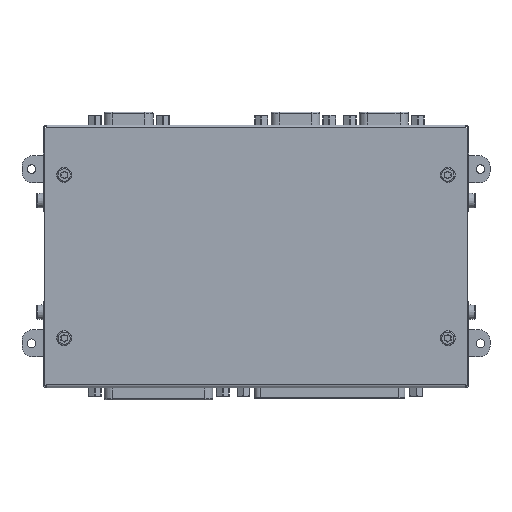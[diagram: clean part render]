
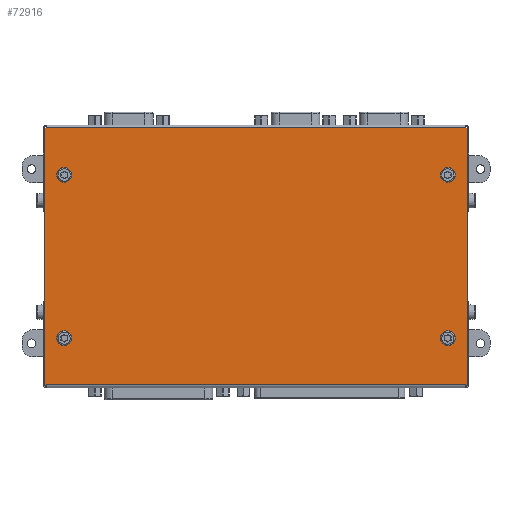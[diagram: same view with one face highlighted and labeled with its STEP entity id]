
A CAD part, top view. The second image highlights one B-rep face of the part: STEP entity #72916.
In plain terms, the highlighted planar face has unit normal (0, 0, 1).
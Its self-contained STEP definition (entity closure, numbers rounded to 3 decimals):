
#337=FACE_BOUND('',#11298,.T.);
#338=FACE_BOUND('',#11299,.T.);
#339=FACE_BOUND('',#11300,.T.);
#340=FACE_BOUND('',#11301,.T.);
#1684=PLANE('',#82533);
#7882=FACE_OUTER_BOUND('',#11297,.T.);
#11297=EDGE_LOOP('',(#65716,#65717,#65718,#65719,#65720,#65721,#65722,#65723));
#11298=EDGE_LOOP('',(#65724));
#11299=EDGE_LOOP('',(#65725));
#11300=EDGE_LOOP('',(#65726));
#11301=EDGE_LOOP('',(#65727));
#18824=LINE('',#135709,#26687);
#18830=LINE('',#135720,#26693);
#18837=LINE('',#135736,#26700);
#18840=LINE('',#135741,#26703);
#18843=LINE('',#135746,#26706);
#18844=LINE('',#135749,#26707);
#18846=LINE('',#135753,#26709);
#18857=LINE('',#135789,#26720);
#26687=VECTOR('',#101420,10.);
#26693=VECTOR('',#101428,10.);
#26700=VECTOR('',#101439,10.);
#26703=VECTOR('',#101444,10.);
#26706=VECTOR('',#101449,10.);
#26707=VECTOR('',#101452,10.);
#26709=VECTOR('',#101458,10.);
#26720=VECTOR('',#101519,10.);
#30709=CIRCLE('',#82432,1.6);
#30711=CIRCLE('',#82435,1.6);
#30713=CIRCLE('',#82438,1.6);
#30715=CIRCLE('',#82441,1.6);
#40969=VERTEX_POINT('',#135542);
#40971=VERTEX_POINT('',#135548);
#40973=VERTEX_POINT('',#135554);
#40975=VERTEX_POINT('',#135560);
#41013=VERTEX_POINT('',#135707);
#41014=VERTEX_POINT('',#135708);
#41018=VERTEX_POINT('',#135718);
#41024=VERTEX_POINT('',#135734);
#41025=VERTEX_POINT('',#135735);
#41026=VERTEX_POINT('',#135740);
#41027=VERTEX_POINT('',#135744);
#41028=VERTEX_POINT('',#135748);
#52145=EDGE_CURVE('',#40969,#40969,#30709,.T.);
#52148=EDGE_CURVE('',#40971,#40971,#30711,.T.);
#52151=EDGE_CURVE('',#40973,#40973,#30713,.T.);
#52154=EDGE_CURVE('',#40975,#40975,#30715,.T.);
#52229=EDGE_CURVE('',#41013,#41014,#18824,.T.);
#52235=EDGE_CURVE('',#41014,#41018,#18830,.T.);
#52242=EDGE_CURVE('',#41024,#41025,#18837,.T.);
#52245=EDGE_CURVE('',#41026,#41024,#18840,.T.);
#52248=EDGE_CURVE('',#41025,#41027,#18843,.T.);
#52249=EDGE_CURVE('',#41028,#41013,#18844,.T.);
#52251=EDGE_CURVE('',#41018,#41026,#18846,.T.);
#52266=EDGE_CURVE('',#41027,#41028,#18857,.T.);
#65716=ORIENTED_EDGE('',*,*,#52229,.T.);
#65717=ORIENTED_EDGE('',*,*,#52235,.T.);
#65718=ORIENTED_EDGE('',*,*,#52251,.T.);
#65719=ORIENTED_EDGE('',*,*,#52245,.T.);
#65720=ORIENTED_EDGE('',*,*,#52242,.T.);
#65721=ORIENTED_EDGE('',*,*,#52248,.T.);
#65722=ORIENTED_EDGE('',*,*,#52266,.T.);
#65723=ORIENTED_EDGE('',*,*,#52249,.T.);
#65724=ORIENTED_EDGE('',*,*,#52145,.T.);
#65725=ORIENTED_EDGE('',*,*,#52148,.T.);
#65726=ORIENTED_EDGE('',*,*,#52151,.T.);
#65727=ORIENTED_EDGE('',*,*,#52154,.T.);
#72916=ADVANCED_FACE('',(#7882,#337,#338,#339,#340),#1684,.T.);
#82432=AXIS2_PLACEMENT_3D('',#135543,#101238,#101239);
#82435=AXIS2_PLACEMENT_3D('',#135549,#101245,#101246);
#82438=AXIS2_PLACEMENT_3D('',#135555,#101252,#101253);
#82441=AXIS2_PLACEMENT_3D('',#135561,#101259,#101260);
#82533=AXIS2_PLACEMENT_3D('',#135798,#101535,#101536);
#101238=DIRECTION('center_axis',(0.,0.,
-1.));
#101239=DIRECTION('ref_axis',(-1.,0.,0.));
#101245=DIRECTION('center_axis',(0.,0.,
-1.));
#101246=DIRECTION('ref_axis',(-1.,0.,0.));
#101252=DIRECTION('center_axis',(0.,0.,
-1.));
#101253=DIRECTION('ref_axis',(-1.,0.,0.));
#101259=DIRECTION('center_axis',(0.,0.,
-1.));
#101260=DIRECTION('ref_axis',(-1.,0.,0.));
#101420=DIRECTION('',(0.,1.,0.));
#101428=DIRECTION('',(-1.,0.,0.));
#101439=DIRECTION('',(0.,-1.,0.));
#101444=DIRECTION('',(-1.,0.,0.));
#101449=DIRECTION('',(1.,0.,0.));
#101452=DIRECTION('',(1.,0.,0.));
#101458=DIRECTION('',(-1.,0.,0.));
#101519=DIRECTION('',(1.,0.,0.));
#101535=DIRECTION('center_axis',(0.,0.,
1.));
#101536=DIRECTION('ref_axis',(1.,0.,0.));
#135542=CARTESIAN_POINT('',(156.7,91.84,20.947));
#135543=CARTESIAN_POINT('Origin',(155.1,91.84,20.947));
#135548=CARTESIAN_POINT('',(15.7,91.84,20.947));
#135549=CARTESIAN_POINT('Origin',(14.1,91.84,20.947));
#135554=CARTESIAN_POINT('',(156.7,31.84,20.947));
#135555=CARTESIAN_POINT('Origin',(155.1,31.84,20.947));
#135560=CARTESIAN_POINT('',(15.7,31.84,20.947));
#135561=CARTESIAN_POINT('Origin',(14.1,31.84,20.947));
#135707=CARTESIAN_POINT('',(162.2,14.67,20.947));
#135708=CARTESIAN_POINT('',(162.2,109.17,20.947));
#135709=CARTESIAN_POINT('',(162.2,73.387,20.947));
#135718=CARTESIAN_POINT('',(161.6,109.17,20.948));
#135720=CARTESIAN_POINT('',(160.6,109.17,20.947));
#135734=CARTESIAN_POINT('',(7.,109.17,20.947));
#135735=CARTESIAN_POINT('',(7.,14.67,20.947));
#135736=CARTESIAN_POINT('',(7.,26.137,20.947));
#135740=CARTESIAN_POINT('',(7.6,109.17,20.948));
#135741=CARTESIAN_POINT('',(9.1,109.17,20.947));
#135744=CARTESIAN_POINT('',(7.6,14.67,20.947));
#135746=CARTESIAN_POINT('',(8.6,14.67,20.947));
#135748=CARTESIAN_POINT('',(161.6,14.67,20.947));
#135749=CARTESIAN_POINT('',(160.1,14.67,20.947));
#135753=CARTESIAN_POINT('',(84.6,109.17,20.948));
#135789=CARTESIAN_POINT('',(84.6,14.67,20.947));
#135798=CARTESIAN_POINT('Origin',(84.6,37.605,20.947));
